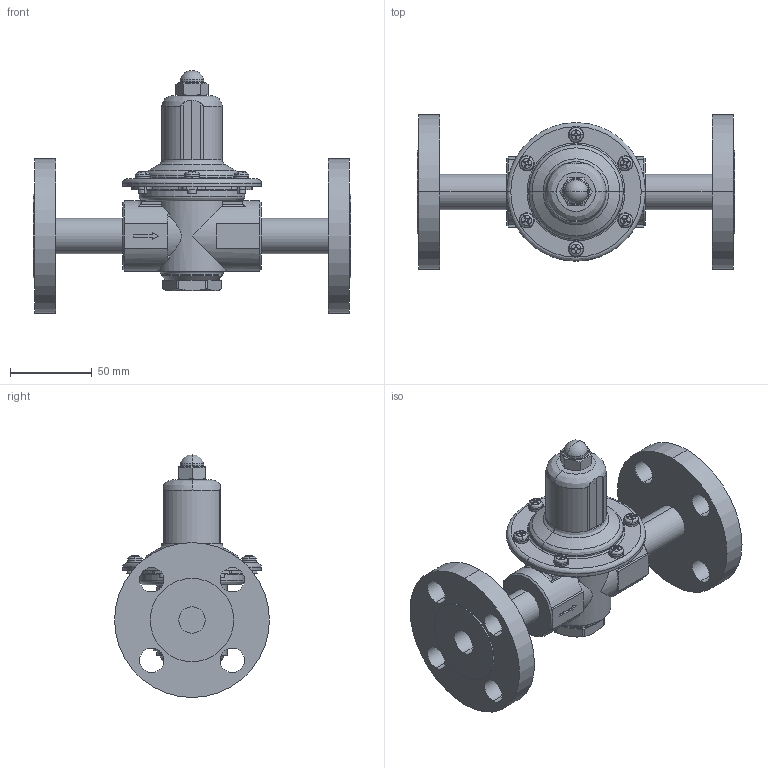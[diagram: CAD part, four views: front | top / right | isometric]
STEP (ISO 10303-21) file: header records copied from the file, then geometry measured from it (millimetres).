
FILE_DESCRIPTION( (''), '2;1');
FILE_NAME ('PC1276.6256.GD-43-20 (15A RF)_32417.stp','2026-01-15T14:40:26',(''),(''),'spGate 20.6.3 (****-****-****-****)','','');
FILE_SCHEMA (('AUTOMOTIVE_DESIGN'));
Length unit declared in the file: millimetre
Products named in the file (7): Assembly; ばねかばー; 袋ナット; 下部キャップ; なべこねじ(Ｍ5-10); スプリング座金; GD-41 15A
Assembly tree (16 placements, depth 2):
  Assembly
    ばねかばー
    袋ナット
    下部キャップ
    なべこねじ(Ｍ5-10)  x6
    スプリング座金  x6
    GD-41 15A
Bounding box: 195 x 95 x 149 mm (x, y, z)
Volume: 386465.5 mm3; surface area: 103216.8 mm2
Topology: 16 solids, 16 shells, 612 faces, 1544 edges, 985 vertices
Faces by surface type: plane 258, cylinder 224, bspline 114, sphere 16
Entity records: 24892 total; most frequent: CARTESIAN_POINT 5320, ORIENTED_EDGE 2280, DIRECTION 2086, COLOUR_RGB 1593, PRESENTATION_STYLE_ASSIGNMENT 1593, STYLED_ITEM 1593, EDGE_CURVE 1140, DRAUGHTING_PRE_DEFINED_CURVE_FONT 1140
